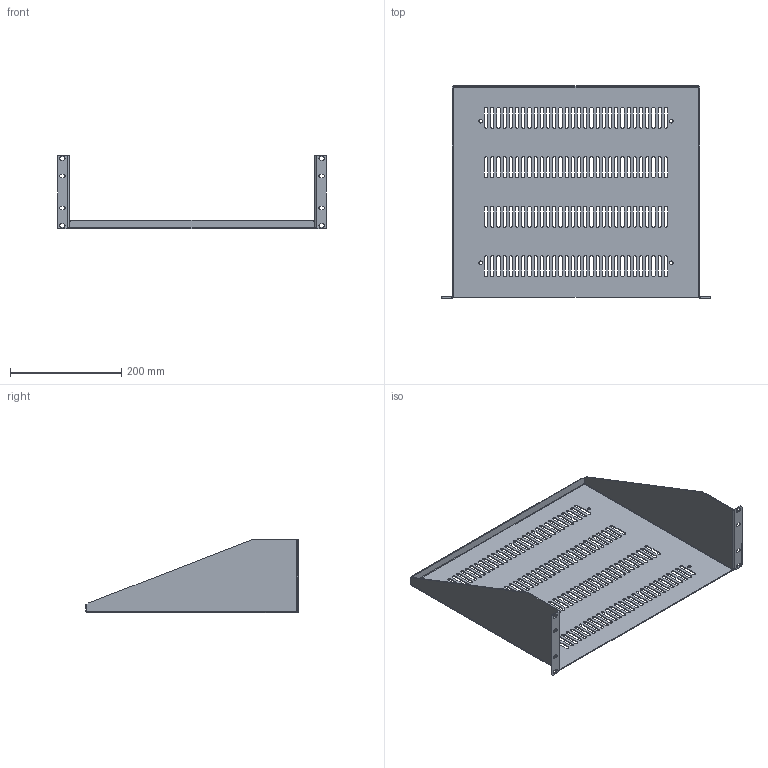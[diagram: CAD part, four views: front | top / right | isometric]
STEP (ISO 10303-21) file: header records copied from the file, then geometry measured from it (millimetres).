
FILE_DESCRIPTION( ( 'Unknown' ), '1' );
FILE_NAME( 'Q:/ACCESSORIES/SHELVES/RK _ RMA/WEB DRAWINGS/STEP/RASV190515.stp', 'Unknown', ( 'Unknown' ), ( 'Unknown' ), 'PSStep 10.1', 'Unknown', ' ' );
FILE_SCHEMA( ( 'AUTOMOTIVE_DESIGN { 1 0 10303 214 1 1 1 1 }' ) );
Length unit declared in the file: millimetre
Products named in the file (1): 1
Bounding box: 482.75 x 381 x 132.54 mm (x, y, z)
Volume: 395219.7 mm3; surface area: 454796.1 mm2
Topology: 1 solids, 1 shells, 580 faces, 1718 edges, 1140 vertices
Faces by surface type: plane 296, cylinder 280, bspline 4
Full cylindrical faces by diameter (mm): 6.35 x4
Entity records: 20245 total; most frequent: CARTESIAN_POINT 3723, ORIENTED_EDGE 3420, DIRECTION 3404, EDGE_CURVE 1710, AXIS2_PLACEMENT_3D 1137, VERTEX_POINT 1136, LINE 1130, VECTOR 1130
